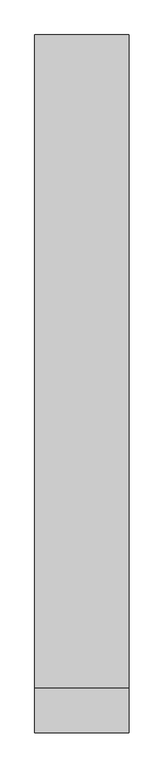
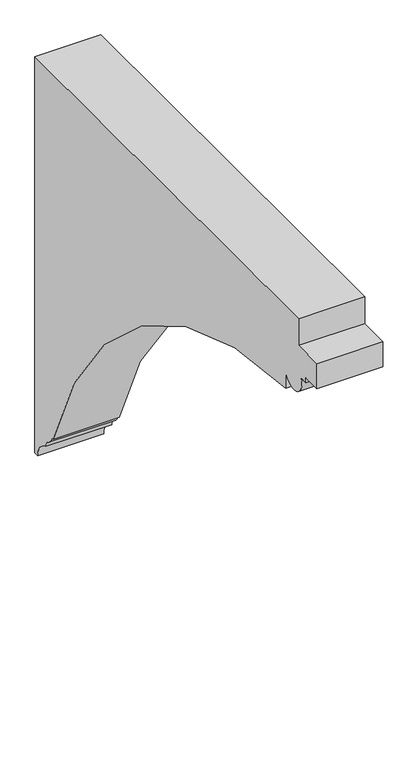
"""IFC4 building model written with IfcOpenShell, lengths in millimetres: beam geometry, mensole1 : mensole."""

import ifcopenshell
import ifcopenshell.guid

model = None  # the IFC model being written
_history = None  # IfcOwnerHistory: only IFC2X3 demands one
_inside = {}  # id of a spatial element -> (the spatial element, [elements in it])
_under = {}  # id of a project, library or spatial element -> (it, [spatial elements below it])
_declared = {}  # id of a project -> (the project, [libraries it declares])
_typed = {}  # id of a type object -> (the type object, [elements of that type])
_made_of = {}  # id of a material, layer set ... -> (it, [elements and type objects made of it])


def new_model(schema):
    """Start an empty IFC model of exactly this schema.

    Asked for "IFC4X3", IfcOpenShell would pick the latest addendum, in which some entities
    have other attributes; the version numbers below select the first issue.
    IFC2X3 requires an IfcOwnerHistory on every rooted entity: one is made here for all.
    """
    global model, _history
    if schema == "IFC4X3":
        model = ifcopenshell.file(schema_version=(4, 3, 0, 0))
    else:
        model = ifcopenshell.file(schema=schema)
    _inside.clear()
    _under.clear()
    _declared.clear()
    _typed.clear()
    _made_of.clear()
    _history = None
    if model.schema == "IFC2X3":
        org = make("IfcOrganization", Name="unknown")
        user = make(
            "IfcPersonAndOrganization",
            ThePerson=make("IfcPerson", FamilyName="unknown"),
            TheOrganization=org,
        )
        app = make(
            "IfcApplication",
            ApplicationDeveloper=org,
            Version="unknown",
            ApplicationFullName="unknown",
            ApplicationIdentifier="unknown",
        )
        _history = make(
            "IfcOwnerHistory",
            OwningUser=user,
            OwningApplication=app,
            ChangeAction="ADDED",
            CreationDate=0,
        )
    return model


def make(cls, **values):
    """One entity of the class cls with the attributes given. An attribute that is None is left unset."""
    return model.create_entity(
        cls, **{name: value for name, value in values.items() if value is not None}
    )


def rooted(cls, **values):
    """An entity with a GlobalId (a new one), such as an element, a storey or a relation."""
    return make(cls, GlobalId=ifcopenshell.guid.new(), OwnerHistory=_history, **values)


def si_unit(unit_type, name, prefix=None):
    """IfcSIUnit, for example si_unit("LENGTHUNIT", "METRE", prefix="MILLI")."""
    return make("IfcSIUnit", UnitType=unit_type, Prefix=prefix, Name=name)


def assignment(units):
    """IfcUnitAssignment: the units of a project."""
    return None if units is None else make("IfcUnitAssignment", Units=units)


def point(xyz):
    """IfcCartesianPoint."""
    return None if xyz is None else make("IfcCartesianPoint", Coordinates=xyz)


def direction(xyz):
    """IfcDirection."""
    return None if xyz is None else make("IfcDirection", DirectionRatios=xyz)


def frame(location, z_axis=None, x_axis=None):
    """IfcAxis2Placement3D, a coordinate frame: its origin and axes. An axis left out is left unset."""
    return make(
        "IfcAxis2Placement3D",
        Location=point(location),
        Axis=direction(z_axis),
        RefDirection=direction(x_axis),
    )


def frame_2d(location, x_axis=None):
    """IfcAxis2Placement2D, a coordinate frame in the plane: its origin and x axis."""
    return make(
        "IfcAxis2Placement2D", Location=point(location), RefDirection=direction(x_axis)
    )


def origin():
    """The frame at (0, 0, 0) with its axes left unset."""
    return frame((0.0, 0.0, 0.0))


def place(relative_to, where):
    """IfcLocalPlacement: puts the frame where relative to a parent placement (None: the world)."""
    return make(
        "IfcLocalPlacement", PlacementRelTo=relative_to, RelativePlacement=where
    )


def context(
    kind, dimensions, precision=None, world=None, true_north=None, identifier=None
):
    """IfcGeometricRepresentationContext, for example the 3D "Model" context."""
    return make(
        "IfcGeometricRepresentationContext",
        ContextIdentifier=identifier,
        ContextType=kind,
        CoordinateSpaceDimension=dimensions,
        Precision=precision,
        WorldCoordinateSystem=world,
        TrueNorth=true_north,
    )


def project(units=None, contexts=None):
    """IfcProject with its units and contexts."""
    return rooted(
        "IfcProject",
        Name="project",
        RepresentationContexts=contexts,
        UnitsInContext=assignment(units),
    )


def spatial(cls, under=None, at=None, **own):
    """A site, building, storey or space (cls), placed at a placement, below another one or the project."""
    s = rooted(cls, ObjectPlacement=at, **own)
    if under is not None:
        _under.setdefault(under.id(), (under, []))[1].append(s)
    return s


def polyline(points):
    """IfcPolyline through the points."""
    return make("IfcPolyline", Points=[point(p) for p in points])


def circle_curve(where, radius):
    """IfcCircle in the frame where."""
    return make("IfcCircle", Position=where, Radius=radius)


def trimmed(basis, trim1, trim2, sense, master):
    """IfcTrimmedCurve: the piece of a basis curve between two trims."""
    return make(
        "IfcTrimmedCurve",
        BasisCurve=basis,
        Trim1=trim1,
        Trim2=trim2,
        SenseAgreement=sense,
        MasterRepresentation=master,
    )


def segment(curve, same_sense, transition):
    """IfcCompositeCurveSegment."""
    return make(
        "IfcCompositeCurveSegment",
        Transition=transition,
        SameSense=same_sense,
        ParentCurve=curve,
    )


def composite_curve(segments, self_intersect=None):
    """IfcCompositeCurve: segments joined end to end."""
    return make("IfcCompositeCurve", Segments=segments, SelfIntersect=self_intersect)


def outline(outer, holes=None, kind="AREA"):
    """IfcArbitraryClosedProfileDef: a profile drawn as a closed curve; with holes, ...WithVoids."""
    if holes is None:
        return make("IfcArbitraryClosedProfileDef", ProfileType=kind, OuterCurve=outer)
    return make(
        "IfcArbitraryProfileDefWithVoids",
        ProfileType=kind,
        OuterCurve=outer,
        InnerCurves=holes,
    )


def extrude(swept, where, along, depth):
    """IfcExtrudedAreaSolid: the profile swept, set in the frame where, extruded along a direction by depth."""
    return make(
        "IfcExtrudedAreaSolid",
        SweptArea=swept,
        Position=where,
        ExtrudedDirection=direction(along),
        Depth=depth,
    )


def shape(context_of_items, identifier, shape_type, items):
    """IfcShapeRepresentation: the items that make up one representation, for example the "Body"."""
    return make(
        "IfcShapeRepresentation",
        ContextOfItems=context_of_items,
        RepresentationIdentifier=identifier,
        RepresentationType=shape_type,
        Items=items,
    )


def source(mapping_origin, context_of_items, identifier, shape_type, items):
    """IfcRepresentationMap: a shape defined once, which mapped items show again and again."""
    return make(
        "IfcRepresentationMap",
        MappingOrigin=mapping_origin,
        MappedRepresentation=shape(context_of_items, identifier, shape_type, items),
    )


def transform(
    local_origin,
    x_axis=None,
    y_axis=None,
    z_axis=None,
    scale=None,
    scale2=None,
    scale3=None,
    uniform=True,
):
    """IfcCartesianTransformationOperator3D, or its non-uniform kind. x_axis, y_axis, z_axis: its Axis1, 2, 3."""
    if uniform:
        return make(
            "IfcCartesianTransformationOperator3D",
            Axis1=direction(x_axis),
            Axis2=direction(y_axis),
            LocalOrigin=point(local_origin),
            Scale=scale,
            Axis3=direction(z_axis),
        )
    return make(
        "IfcCartesianTransformationOperator3DnonUniform",
        Axis1=direction(x_axis),
        Axis2=direction(y_axis),
        LocalOrigin=point(local_origin),
        Scale=scale,
        Axis3=direction(z_axis),
        Scale2=scale2,
        Scale3=scale3,
    )


def mapped(mapping_source, mapping_target):
    """IfcMappedItem: shows the shape of a source again, moved by a transform."""
    return make(
        "IfcMappedItem", MappingSource=mapping_source, MappingTarget=mapping_target
    )


def made_of(thing, what):
    """Note that an element or type object is made of a material, layer set ...; save() writes the relation."""
    if what is not None:
        _made_of.setdefault(what.id(), (what, []))[1].append(thing)
    return thing


def element(
    cls,
    number,
    at=None,
    inside=None,
    cuts=None,
    type_object=None,
    material=None,
    context=None,
    identifier="Body",
    shape_type=None,
    held_by="IfcProductDefinitionShape",
    body=None,
    shapes=None,
    **own,
):
    """One element of the class cls, such as IfcWall. Its Tag is "e" and its number.

    at: its placement. inside: the storey or other place that contains it. cuts: it is an
    opening in that element (IfcRelVoidsElement). A single representation is given by context,
    identifier, shape_type and body (its items); several are given by shapes. held_by: the class
    of the entity that holds the representations. save() writes the other relations.
    """
    e = rooted(cls, Tag="e%d" % number, ObjectPlacement=at, **own)
    if body is not None:
        shapes = [shape(context, identifier, shape_type, body)]
    if shapes is not None:
        e.Representation = make(held_by, Representations=shapes)
    if inside is not None:
        _inside.setdefault(inside.id(), (inside, []))[1].append(e)
    if cuts is not None:
        rooted(
            "IfcRelVoidsElement", RelatingBuildingElement=cuts, RelatedOpeningElement=e
        )
    if type_object is not None:
        _typed.setdefault(type_object.id(), (type_object, []))[1].append(e)
    return made_of(e, material)


def aggregate(whole, parts):
    """IfcRelAggregates: a whole, such as a stair, and the parts it consists of."""
    return rooted("IfcRelAggregates", RelatingObject=whole, RelatedObjects=parts)


def save(model, path):
    """Write the relations noted so far, then the file.

    IfcRelAggregates (storeys below a building ...), IfcRelContainedInSpatialStructure (elements
    in a storey), IfcRelDefinesByType, IfcRelAssociatesMaterial and IfcRelDeclares: one each for
    every whole, place, type object, material and project.
    """
    for whole, parts in _under.values():
        aggregate(whole, parts)
    for where, things in _inside.values():
        rooted(
            "IfcRelContainedInSpatialStructure",
            RelatedElements=things,
            RelatingStructure=where,
        )
    for kind, things in _typed.values():
        rooted("IfcRelDefinesByType", RelatedObjects=things, RelatingType=kind)
    for what, things in _made_of.values():
        rooted("IfcRelAssociatesMaterial", RelatedObjects=things, RelatingMaterial=what)
    for by, libraries in _declared.values():
        rooted("IfcRelDeclares", RelatingContext=by, RelatedDefinitions=libraries)
    model.write(path)


def beam_016028f3(model_context):
    return source(origin(), model_context, "Body", "SweptSolid", [
        extrude(outline(composite_curve([segment(trimmed(circle_curve(frame_2d((24082.2436131, -6161.9318168)), 1643.2182464), [point((25643.3920265, -5649.1142696))], [point((24117.5135392, -4519.0921296))], True, "CARTESIAN"), True, "CONTINUOUS"), segment(polyline([(24117.5135392, -4519.0921296), (24117.5135392, -4438.335738)]), True, "CONTINUOUS"), segment(trimmed(circle_curve(frame_2d((24064.3999141, -4438.335738)), 53.1136251), [point((24117.5135392, -4438.335738))], [point((24015.8461449, -4416.8046286))], False, "CARTESIAN"), True, "CONTINUOUS"), segment(polyline([(24015.8461449, -4416.8046286), (23984.7008081, -4416.8046286), (23984.7008081, -4396.8046286), (23913.3920265, -4396.8046286), (23913.3920265, -4296.8046286), (24033.3920265, -4296.8046286), (24033.3920265, -4190.0), (25763.3893107, -4190.0), (25763.3893107, -5776.8046286), (25746.2950816, -5776.8046286)]), True, "CONTINUOUS"), segment(trimmed(circle_curve(frame_2d((25669.1759258, -5781.2181855)), 77.2453472), [point((25746.2950816, -5776.8046286))], [point((25693.0663371, -5707.7600892))], True, "CARTESIAN"), True, "CONTINUOUS"), segment(trimmed(circle_curve(frame_2d((25657.2374049, -5710.7423835)), 35.9528367), [point((25693.0663371, -5707.7600892))], [point((25675.5418456, -5679.7980154))], True, "CARTESIAN"), True, "CONTINUOUS"), segment(trimmed(circle_curve(frame_2d((25689.830292, -5646.1469782)), 36.5588841), [point((25675.5418456, -5679.7980154))], [point((25653.3920265, -5649.1142696))], False, "CARTESIAN"), True, "CONTINUOUS"), segment(polyline([(25653.3920265, -5649.1142696), (25643.3920265, -5649.1142696)]), True, "CONTINUOUS")], self_intersect=False)), frame((53397.3573777, 0.0, 0.0), z_axis=(1.0, 0.0, 0.0), x_axis=(0.0, 1.0, 0.0)), (0.0, 0.0, 1.0), 250.0),
    ])


if __name__ == "__main__":
    model = new_model("IFC4")
    model_context = context("Model", 3, world=origin())
    ifc_project = project(units=[si_unit("LENGTHUNIT", "METRE", prefix="MILLI")], contexts=[model_context])
    site = spatial("IfcSite", under=ifc_project)
    building = spatial("IfcBuilding", under=site)
    placement = place(None, origin())
    beam_shape = beam_016028f3(model_context)
    element("IfcBeam", 1, ObjectType="mensole1 : mensole", at=placement, inside=building, context=model_context, shape_type="MappedRepresentation", body=[
        mapped(beam_shape, transform((0.0, 0.0, 0.0), x_axis=(1.0, 0.0, 0.0), y_axis=(0.0, 1.0, 0.0), z_axis=(0.0, 0.0, 1.0))),
    ])
    save(model, "model.ifc")
